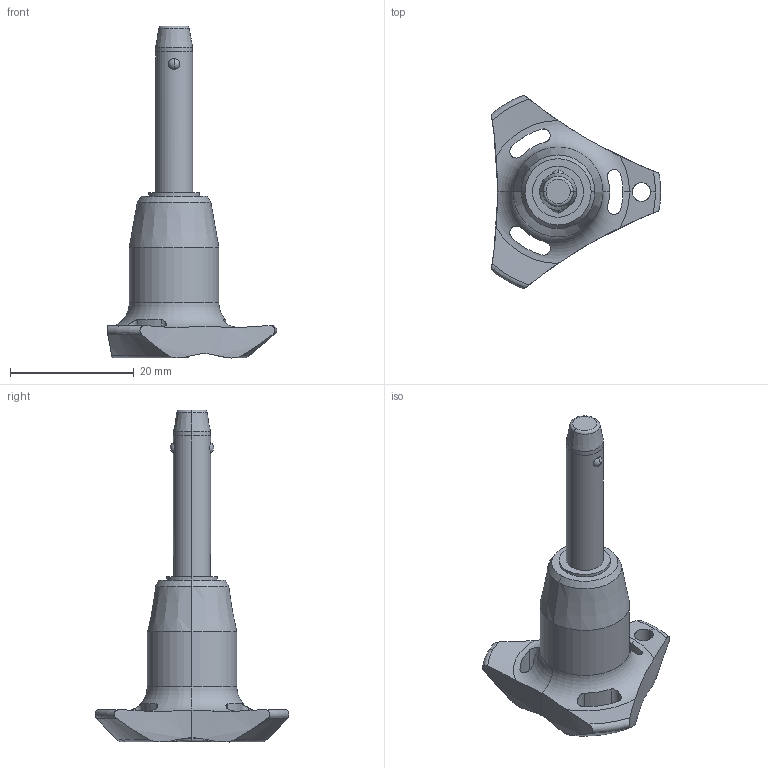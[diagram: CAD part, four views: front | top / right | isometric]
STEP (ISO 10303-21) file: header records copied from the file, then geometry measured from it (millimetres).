
FILE_DESCRIPTION (( 'STEP AP203' ), '1' );
FILE_NAME ('QR1726.M06-020-T.step', '2025-11-13T11:02:16', ( '' ), ( '' ), 'SwSTEP 2.0', 'SolidWorks 2019', '' );
FILE_SCHEMA (( 'CONFIG_CONTROL_DESIGN' ));
Length unit declared in the file: millimetre
Products named in the file (1): QR1726.M06-020-T
Bounding box: 27.4 x 31.31 x 53.7 mm (x, y, z)
Volume: 5531.4 mm3; surface area: 2929.9 mm2
Topology: 1 solids, 1 shells, 69 faces, 187 edges, 119 vertices
Faces by surface type: cylinder 32, cone 14, torus 12, sphere 6, plane 5
Entity records: 2789 total; most frequent: CARTESIAN_POINT 1010, ORIENTED_EDGE 374, DIRECTION 348, EDGE_CURVE 187, AXIS2_PLACEMENT_3D 155, VERTEX_POINT 119, CIRCLE 85, EDGE_LOOP 76
